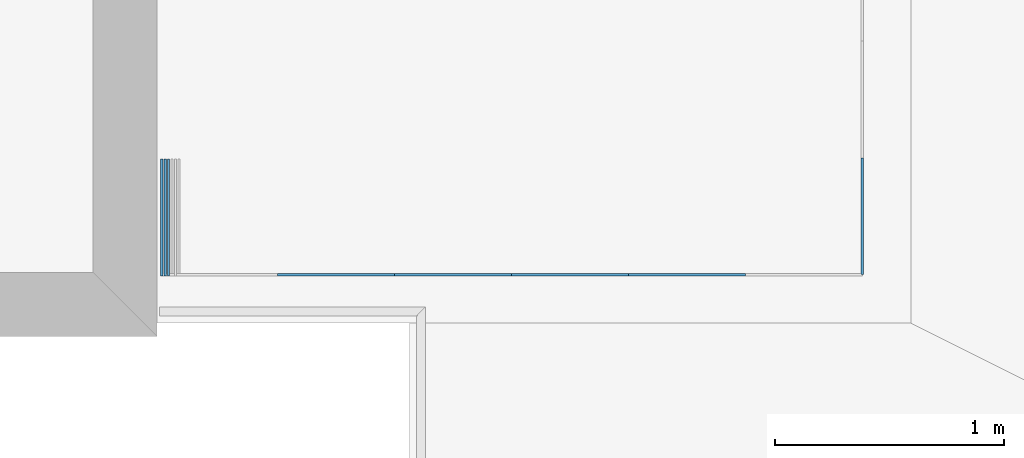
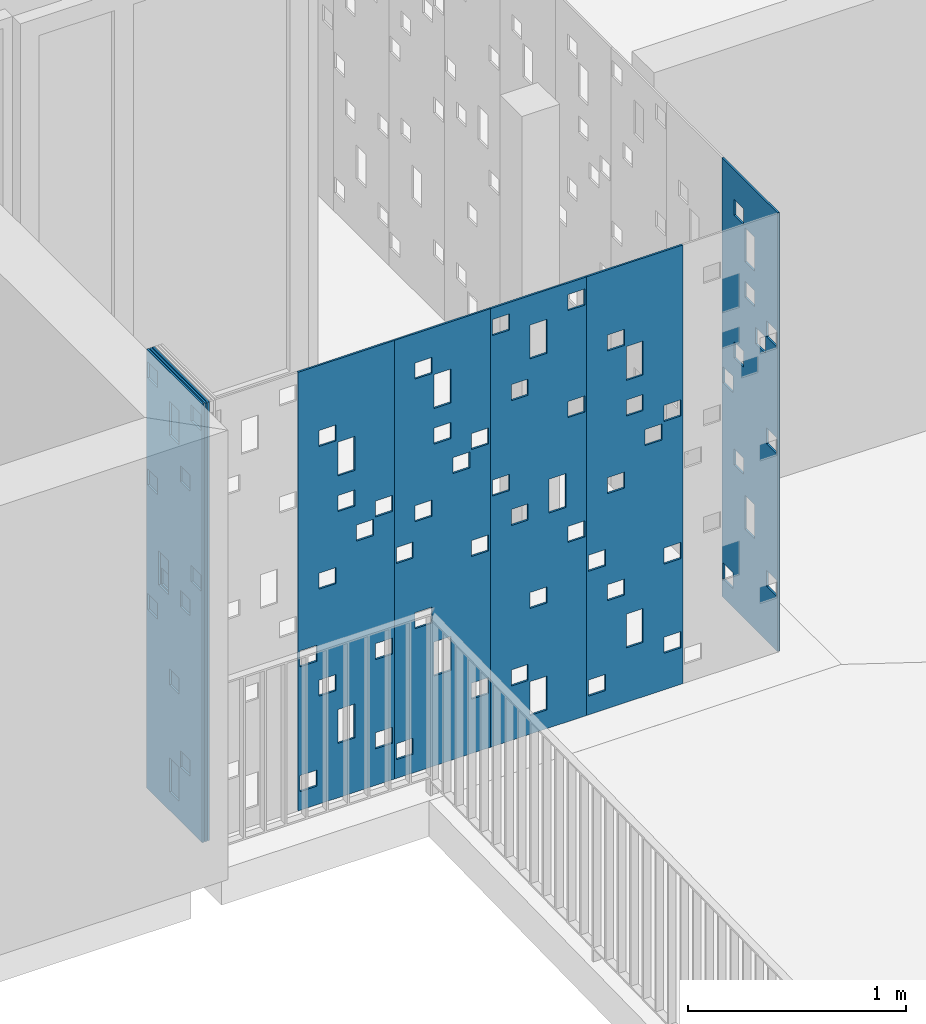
# One storey, part 7 of 51: 8 beams.
"""IFC2X3 building model written with IfcOpenShell, lengths in metres."""

from ifc_helpers import new_model, entity, si_unit, converted_unit, derived_unit, direction, frame, origin, place, context, subcontext, project, spatial, polyline, outline, extrude, material, type_object, element, save


model = new_model("IFC2X3")

# Units and contexts
model_context = context("Model", 3, precision=1e-05, world=origin(), true_north=direction((6.123031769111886e-17, 1.0)))
body_context = subcontext(model_context, "Body", "Model", "MODEL_VIEW")
ifc_project = project(units=[si_unit("LENGTHUNIT", "METRE"), si_unit("AREAUNIT", "SQUARE_METRE"), si_unit("VOLUMEUNIT", "CUBIC_METRE"), converted_unit("PLANEANGLEUNIT", "DEGREE", entity("IfcRatioMeasure", 0.017453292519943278), si_unit("PLANEANGLEUNIT", "RADIAN"), dimensions=[0, 0, 0, 0, 0, 0, 0]), si_unit("MASSUNIT", "GRAM", prefix="KILO"), derived_unit("MASSDENSITYUNIT", [(si_unit("MASSUNIT", "GRAM", prefix="KILO"), 1), (si_unit("LENGTHUNIT", "METRE"), -3)]), derived_unit("MOMENTOFINERTIAUNIT", [(si_unit("LENGTHUNIT", "METRE"), 4)]), si_unit("TIMEUNIT", "SECOND"), si_unit("FREQUENCYUNIT", "HERTZ"), si_unit("THERMODYNAMICTEMPERATUREUNIT", "DEGREE_CELSIUS"), derived_unit("THERMALTRANSMITTANCEUNIT", [(si_unit("MASSUNIT", "GRAM", prefix="KILO"), 1), (si_unit("THERMODYNAMICTEMPERATUREUNIT", "KELVIN"), -1), (si_unit("TIMEUNIT", "SECOND"), -3)]), derived_unit("THERMALCONDUCTANCEUNIT", [(si_unit("MASSUNIT", "GRAM", prefix="KILO"), 1), (si_unit("LENGTHUNIT", "METRE"), 1), (si_unit("THERMODYNAMICTEMPERATUREUNIT", "KELVIN"), -1), (si_unit("TIMEUNIT", "SECOND"), -3)]), derived_unit("VOLUMETRICFLOWRATEUNIT", [(si_unit("LENGTHUNIT", "METRE"), 3), (si_unit("TIMEUNIT", "SECOND"), -1)]), derived_unit("MASSFLOWRATEUNIT", [(si_unit("MASSUNIT", "GRAM", prefix="KILO"), 1), (si_unit("TIMEUNIT", "SECOND"), -1)]), derived_unit("ROTATIONALFREQUENCYUNIT", [(si_unit("TIMEUNIT", "SECOND"), -1)]), si_unit("ELECTRICCURRENTUNIT", "AMPERE"), si_unit("ELECTRICVOLTAGEUNIT", "VOLT"), si_unit("POWERUNIT", "WATT"), si_unit("FORCEUNIT", "NEWTON", prefix="KILO"), si_unit("ILLUMINANCEUNIT", "LUX"), si_unit("LUMINOUSFLUXUNIT", "LUMEN"), si_unit("LUMINOUSINTENSITYUNIT", "CANDELA"), derived_unit("USERDEFINED", [(si_unit("MASSUNIT", "GRAM", prefix="KILO"), -1), (si_unit("LENGTHUNIT", "METRE"), -2), (si_unit("TIMEUNIT", "SECOND"), 3), (si_unit("LUMINOUSFLUXUNIT", "LUMEN"), 1)]), derived_unit("USERDEFINED", [(si_unit("MASSUNIT", "GRAM", prefix="KILO"), 1), (si_unit("LENGTHUNIT", "METRE"), 3), (si_unit("TIMEUNIT", "SECOND"), -3), (si_unit("ELECTRICCURRENTUNIT", "AMPERE"), -2)]), derived_unit("USERDEFINED", [(si_unit("LENGTHUNIT", "METRE"), 2), (si_unit("TIMEUNIT", "SECOND"), -2)]), derived_unit("SOUNDPOWERUNIT", [(si_unit("MASSUNIT", "GRAM", prefix="KILO"), 1), (si_unit("LENGTHUNIT", "METRE"), 2), (si_unit("TIMEUNIT", "SECOND"), -3)]), derived_unit("SOUNDPRESSUREUNIT", [(si_unit("MASSUNIT", "GRAM", prefix="KILO"), 1), (si_unit("LENGTHUNIT", "METRE"), -1), (si_unit("TIMEUNIT", "SECOND"), -2)]), derived_unit("LINEARVELOCITYUNIT", [(si_unit("LENGTHUNIT", "METRE"), 1), (si_unit("TIMEUNIT", "SECOND"), -1)]), si_unit("PRESSUREUNIT", "PASCAL"), derived_unit("USERDEFINED", [(si_unit("LENGTHUNIT", "METRE"), -2), (si_unit("MASSUNIT", "GRAM", prefix="KILO"), 1), (si_unit("TIMEUNIT", "SECOND"), -2)]), derived_unit("LINEARFORCEUNIT", [(si_unit("MASSUNIT", "GRAM", prefix="KILO"), 1), (si_unit("LENGTHUNIT", "METRE"), 1), (si_unit("TIMEUNIT", "SECOND"), -2), (si_unit("LENGTHUNIT", "METRE"), -1)]), derived_unit("PLANARFORCEUNIT", [(si_unit("MASSUNIT", "GRAM", prefix="KILO"), 1), (si_unit("LENGTHUNIT", "METRE"), 1), (si_unit("TIMEUNIT", "SECOND"), -2), (si_unit("LENGTHUNIT", "METRE"), -2)]), derived_unit("SPECIFICHEATCAPACITYUNIT", [(si_unit("LENGTHUNIT", "METRE"), 2), (si_unit("TIMEUNIT", "SECOND"), -2), (si_unit("THERMODYNAMICTEMPERATUREUNIT", "KELVIN"), -1)]), derived_unit("VAPORPERMEABILITYUNIT", [(si_unit("TIMEUNIT", "SECOND"), 1), (si_unit("LENGTHUNIT", "METRE"), -1)]), derived_unit("DYNAMICVISCOSITYUNIT", [(si_unit("MASSUNIT", "GRAM", prefix="KILO"), 1), (si_unit("LENGTHUNIT", "METRE"), -1), (si_unit("TIMEUNIT", "SECOND"), -1)]), derived_unit("THERMALEXPANSIONCOEFFICIENTUNIT", [(si_unit("THERMODYNAMICTEMPERATUREUNIT", "KELVIN"), -1)])], contexts=[model_context])

# Site, building, storey
site_placement = place(None, origin())
site = spatial("IfcSite", under=ifc_project, at=site_placement, Name="Default", CompositionType="ELEMENT")
building_placement = place(site_placement, origin())
building = spatial("IfcBuilding", under=site, at=building_placement, CompositionType="ELEMENT")
storey_placement = place(building_placement, frame((0.0, 0.0, 3.06)))
storey = spatial("IfcBuildingStorey", under=building, at=storey_placement, Name="ÉTAGE", CompositionType="ELEMENT", Elevation=3.06)

# Beams
ifc_material = material(Name="Peinture - Gris foncé")
beam_type_1 = type_object("IfcBeamType", Name="Poutre-017 459230:Poutre-017 459230", PredefinedType="NOTDEFINED")
beam_1_placement = place(storey_placement, origin())
element("IfcBeam", 1, at=beam_1_placement, inside=storey, type_object=beam_type_1, material=ifc_material, Name="Poutre-017", ObjectType="Poutre-017 459230:Poutre-017 459230", context=body_context, shape_type="SweptSolid", body=[
    extrude(outline(polyline([(-0.25500000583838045, -1.2299999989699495), (0.25500000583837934, -1.2299999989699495), (0.25500000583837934, 1.22999999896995), (-0.25500000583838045, 1.22999999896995), (-0.25500000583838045, -1.2299999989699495)]), holes=[polyline([(-0.24500002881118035, 1.1250000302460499), (-0.1549999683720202, 1.1250000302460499), (-0.1549999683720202, 1.03499996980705), (-0.24500002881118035, 1.03499996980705), (-0.24500002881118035, 1.1250000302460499)]), polyline([(-0.05499996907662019, 0.4250000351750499), (-0.05499996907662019, 0.33499997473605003), (-0.1449999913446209, 0.33499997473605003), (-0.1449999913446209, 0.4250000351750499), (-0.05499996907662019, 0.4250000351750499)]), polyline([(0.044999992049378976, 0.5350000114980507), (-0.04499999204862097, 0.5350000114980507), (-0.04499999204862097, 0.7249999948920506), (0.044999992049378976, 0.7249999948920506), (0.044999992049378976, 0.5350000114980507)]), polyline([(0.24499999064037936, 0.9250000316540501), (0.24499999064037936, 0.8350000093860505), (0.15500000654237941, 0.8350000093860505), (0.15500000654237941, 0.9250000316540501), (0.24499999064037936, 0.9250000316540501)]), polyline([(0.15500000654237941, 0.12500003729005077), (0.24499999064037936, 0.12500003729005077), (0.24499999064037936, 0.03500001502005), (0.15500000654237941, 0.03500001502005), (0.15500000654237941, 0.12500003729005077)]), polyline([(-0.1449999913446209, -0.9749999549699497), (-0.05499996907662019, -0.9749999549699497), (-0.05499996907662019, -1.06499997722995), (-0.1449999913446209, -1.06499997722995), (-0.1449999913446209, -0.9749999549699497)]), polyline([(-0.24500002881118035, 0.025000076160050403), (-0.1549999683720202, 0.025000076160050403), (-0.1549999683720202, -0.06499998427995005), (-0.24500002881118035, -0.06499998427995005), (-0.24500002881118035, 0.025000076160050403)]), polyline([(-0.05499996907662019, -0.2650000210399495), (-0.1449999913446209, -0.2650000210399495), (-0.1449999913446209, -0.17499996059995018), (-0.05499996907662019, -0.17499996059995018), (-0.05499996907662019, -0.2650000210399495)]), polyline([(-0.04499999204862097, -0.5749999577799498), (0.044999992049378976, -0.5749999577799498), (0.044999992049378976, -0.6650000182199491), (-0.04499999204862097, -0.6650000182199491), (-0.04499999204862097, -0.5749999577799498)]), polyline([(0.044999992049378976, -0.7749999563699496), (0.044999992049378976, -0.965000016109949), (-0.04499999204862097, -0.965000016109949), (-0.04499999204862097, -0.7749999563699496), (0.044999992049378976, -0.7749999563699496)]), polyline([(0.14499999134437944, -0.4650000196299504), (0.055000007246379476, -0.4650000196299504), (0.055000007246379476, -0.37499995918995), (0.14499999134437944, -0.37499995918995), (0.14499999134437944, -0.4650000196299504)]), polyline([(0.24499999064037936, -0.4749999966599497), (0.24499999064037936, -0.5650000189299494), (0.15500000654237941, -0.5650000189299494), (0.15500000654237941, -0.4749999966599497), (0.24499999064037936, -0.4749999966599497)])]), frame((151.970752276, 8.112209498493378, 2.46000001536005), z_axis=(1.0, 0.0, 0.0), x_axis=(0.0, -1.0, 0.0)), (0.0, 0.0, 1.0), 0.009999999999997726),
])
beam_type_2 = type_object("IfcBeamType", Name="Poutre-017 459038:Poutre-017 459038", PredefinedType="NOTDEFINED")
beam_2_placement = place(storey_placement, origin())
element("IfcBeam", 2, at=beam_2_placement, inside=storey, type_object=beam_type_2, material=ifc_material, Name="Poutre-017", ObjectType="Poutre-017 459038:Poutre-017 459038", context=body_context, shape_type="SweptSolid", body=[
    extrude(outline(polyline([(-0.2550000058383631, -1.2299999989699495), (0.25500000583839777, -1.2299999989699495), (0.25500000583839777, 1.2299999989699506), (-0.2550000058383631, 1.2299999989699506), (-0.2550000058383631, -1.2299999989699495)]), holes=[polyline([(-0.24499999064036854, -0.03500001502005), (-0.15500000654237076, -0.03500001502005), (-0.15500000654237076, -0.1250000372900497), (-0.24499999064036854, -0.1250000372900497), (-0.24499999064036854, -0.03500001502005)]), polyline([(0.15499996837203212, -1.0349999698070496), (0.24500002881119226, -1.0349999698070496), (0.24500002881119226, -1.1250000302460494), (0.15499996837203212, -1.1250000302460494), (0.15499996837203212, -1.0349999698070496)]), polyline([(0.14499999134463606, -0.33499997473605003), (0.14499999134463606, -0.4250000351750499), (0.05499996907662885, -0.4250000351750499), (0.05499996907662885, -0.33499997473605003), (0.14499999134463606, -0.33499997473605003)]), polyline([(0.04499999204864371, -0.7249999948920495), (-0.0449999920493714, -0.7249999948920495), (-0.0449999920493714, -0.5350000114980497), (0.04499999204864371, -0.5350000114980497), (0.04499999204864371, -0.7249999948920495)]), polyline([(-0.15500000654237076, -0.8350000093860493), (-0.15500000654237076, -0.9250000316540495), (-0.24499999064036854, -0.9250000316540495), (-0.24499999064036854, -0.8350000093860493), (-0.15500000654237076, -0.8350000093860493)]), polyline([(0.05499996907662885, 1.06499997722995), (0.14499999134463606, 1.06499997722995), (0.14499999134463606, 0.9749999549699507), (0.05499996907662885, 0.9749999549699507), (0.05499996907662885, 1.06499997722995)]), polyline([(0.15499996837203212, 0.06499998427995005), (0.24500002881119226, 0.06499998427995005), (0.24500002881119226, -0.02500007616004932), (0.15499996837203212, -0.02500007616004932), (0.15499996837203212, 0.06499998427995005)]), polyline([(0.14499999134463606, 0.17499996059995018), (0.05499996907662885, 0.17499996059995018), (0.05499996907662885, 0.26500002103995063), (0.14499999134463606, 0.26500002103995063), (0.14499999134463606, 0.17499996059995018)]), polyline([(-0.0449999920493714, 0.6650000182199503), (0.04499999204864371, 0.6650000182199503), (0.04499999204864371, 0.5749999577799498), (-0.0449999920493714, 0.5749999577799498), (-0.0449999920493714, 0.6650000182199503)]), polyline([(0.04499999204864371, 0.9650000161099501), (0.04499999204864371, 0.7749999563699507), (-0.0449999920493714, 0.7749999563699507), (-0.0449999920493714, 0.9650000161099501), (0.04499999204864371, 0.9650000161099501)]), polyline([(-0.05500000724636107, 0.37499995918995), (-0.14499999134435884, 0.37499995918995), (-0.14499999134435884, 0.4650000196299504), (-0.05500000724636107, 0.4650000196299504), (-0.05500000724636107, 0.37499995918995)]), polyline([(-0.15500000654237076, 0.5650000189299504), (-0.15500000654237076, 0.4749999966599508), (-0.24499999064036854, 0.4749999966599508), (-0.24499999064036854, 0.5650000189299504), (-0.15500000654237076, 0.5650000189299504)])]), frame((150.19075224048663, 7.85220950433, 2.460000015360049), z_axis=(0.0, 1.0, 0.0), x_axis=(-1.0, 0.0, 0.0)), (0.0, 0.0, 1.0), 0.009999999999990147),
])
beam_3_placement = place(storey_placement, origin())
element("IfcBeam", 3, at=beam_3_placement, inside=storey, type_object=beam_type_2, material=ifc_material, Name="Poutre-017", ObjectType="Poutre-017 459038:Poutre-017 459038", context=body_context, shape_type="SweptSolid", body=[
    extrude(outline(polyline([(-1.2299999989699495, -0.25500000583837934), (1.2299999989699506, -0.25500000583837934), (1.2299999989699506, 0.25500000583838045), (-1.2299999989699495, 0.25500000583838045), (-1.2299999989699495, -0.25500000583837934)]), holes=[polyline([(-1.0349999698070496, 0.1549999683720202), (-1.1250000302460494, 0.1549999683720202), (-1.1250000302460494, 0.24500002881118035), (-1.0349999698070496, 0.24500002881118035), (-1.0349999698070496, 0.1549999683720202)]), polyline([(-0.33499997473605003, 0.1449999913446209), (-0.33499997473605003, 0.05499996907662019), (-0.4250000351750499, 0.05499996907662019), (-0.4250000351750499, 0.1449999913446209), (-0.33499997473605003, 0.1449999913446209)]), polyline([(-0.7249999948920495, 0.04499999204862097), (-0.5350000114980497, 0.04499999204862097), (-0.5350000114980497, -0.044999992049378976), (-0.7249999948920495, -0.044999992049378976), (-0.7249999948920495, 0.04499999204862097)]), polyline([(-0.8350000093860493, -0.15500000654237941), (-0.8350000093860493, -0.24499999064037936), (-0.9250000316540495, -0.24499999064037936), (-0.9250000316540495, -0.15500000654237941), (-0.8350000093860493, -0.15500000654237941)]), polyline([(1.06499997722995, 0.05499996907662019), (0.9749999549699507, 0.05499996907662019), (0.9749999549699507, 0.1449999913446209), (1.06499997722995, 0.1449999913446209), (1.06499997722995, 0.05499996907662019)]), polyline([(0.06499998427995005, 0.1549999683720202), (-0.02500007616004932, 0.1549999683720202), (-0.02500007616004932, 0.24500002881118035), (0.06499998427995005, 0.24500002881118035), (0.06499998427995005, 0.1549999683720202)]), polyline([(0.17499996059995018, 0.1449999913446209), (0.26500002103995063, 0.1449999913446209), (0.26500002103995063, 0.05499996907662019), (0.17499996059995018, 0.05499996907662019), (0.17499996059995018, 0.1449999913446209)]), polyline([(0.6650000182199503, -0.044999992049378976), (0.5749999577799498, -0.044999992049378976), (0.5749999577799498, 0.04499999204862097), (0.6650000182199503, 0.04499999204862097), (0.6650000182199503, -0.044999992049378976)]), polyline([(0.9650000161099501, 0.04499999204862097), (0.9650000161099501, -0.044999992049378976), (0.7749999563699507, -0.044999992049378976), (0.7749999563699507, 0.04499999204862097), (0.9650000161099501, 0.04499999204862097)]), polyline([(0.37499995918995, -0.055000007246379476), (0.4650000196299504, -0.055000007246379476), (0.4650000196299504, -0.14499999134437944), (0.37499995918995, -0.14499999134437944), (0.37499995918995, -0.055000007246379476)]), polyline([(0.5650000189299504, -0.15500000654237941), (0.5650000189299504, -0.24499999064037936), (0.4749999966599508, -0.24499999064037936), (0.4749999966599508, -0.15500000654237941), (0.5650000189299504, -0.15500000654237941)]), polyline([(-0.03500001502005, -0.24499999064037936), (-0.1250000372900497, -0.24499999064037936), (-0.1250000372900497, -0.15500000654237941), (-0.03500001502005, -0.15500000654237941), (-0.03500001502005, -0.24499999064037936)])]), frame((148.945752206, 8.10720948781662, 2.460000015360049), z_axis=(1.0, 0.0, 0.0), x_axis=(0.0, 0.0, 1.0)), (0.0, 0.0, 1.0), 0.009999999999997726),
])
beam_type_3 = type_object("IfcBeamType", Name="Poutre-017 458855:Poutre-017 458855", PredefinedType="NOTDEFINED")
beam_4_placement = place(storey_placement, origin())
element("IfcBeam", 4, at=beam_4_placement, inside=storey, type_object=beam_type_3, material=ifc_material, Name="Poutre-017", ObjectType="Poutre-017 458855:Poutre-017 458855", context=body_context, shape_type="SweptSolid", body=[
    extrude(outline(polyline([(-0.25500001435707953, -1.2299999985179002), (0.2550000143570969, -1.2299999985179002), (0.2550000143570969, 1.2299999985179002), (-0.25500001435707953, 1.2299999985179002), (-0.25500001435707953, -1.2299999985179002)]), holes=[polyline([(-0.24500001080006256, 0.42500001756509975), (-0.15499994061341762, 0.42500001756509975), (-0.15499994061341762, 0.33499998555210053), (-0.24500001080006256, 0.33499998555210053), (-0.24500001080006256, 0.42500001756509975)]), polyline([(-0.15499994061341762, 1.0349999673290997), (-0.24500001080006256, 1.0349999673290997), (-0.24500001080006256, 1.1249999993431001), (-0.15499994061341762, 1.1249999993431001), (-0.15499994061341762, 1.0349999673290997)]), polyline([(-0.1449999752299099, 0.5349999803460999), (-0.1449999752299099, 0.6250000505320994), (-0.05499994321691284, 0.6250000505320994), (-0.05499994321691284, 0.5349999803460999), (-0.1449999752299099, 0.5349999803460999)]), polyline([(0.04499997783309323, 0.7350000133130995), (-0.04499993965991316, 0.7350000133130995), (-0.04499993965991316, 0.9250000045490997), (0.04499997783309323, 0.9250000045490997), (0.04499997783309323, 0.7350000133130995)]), polyline([(0.15499997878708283, 0.4349999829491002), (0.15499997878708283, 0.5250000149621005), (0.2450000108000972, 0.5250000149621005), (0.2450000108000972, 0.4349999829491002), (0.15499997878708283, 0.4349999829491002)]), polyline([(0.15499997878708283, 0.9349999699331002), (0.15499997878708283, 1.0250000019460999), (0.2450000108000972, 1.0250000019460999), (0.2450000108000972, 0.9349999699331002), (0.15499997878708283, 0.9349999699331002)]), polyline([(-0.1449999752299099, -0.7749999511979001), (-0.05499994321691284, -0.7749999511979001), (-0.05499994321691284, -0.8649999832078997), (-0.1449999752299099, -0.8649999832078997), (-0.1449999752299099, -0.7749999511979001)]), polyline([(-0.1449999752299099, -0.06500004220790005), (-0.1449999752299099, 0.024999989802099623), (-0.05499994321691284, 0.024999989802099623), (-0.05499994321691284, -0.06500004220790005), (-0.1449999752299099, -0.06500004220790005)]), polyline([(0.04499997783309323, -0.4650000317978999), (-0.04499993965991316, -0.4650000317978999), (-0.04499993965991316, -0.3749999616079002), (0.04499997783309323, -0.3749999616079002), (0.04499997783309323, -0.4650000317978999)]), polyline([(-0.04499993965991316, -0.5749999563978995), (0.04499997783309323, -0.5749999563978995), (0.04499997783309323, -0.7650000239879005), (-0.04499993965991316, -0.7650000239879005), (-0.04499993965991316, -0.5749999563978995)]), polyline([(0.05500001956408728, -0.17499996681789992), (0.14499997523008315, -0.17499996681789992), (0.14499997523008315, -0.2649999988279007), (0.05500001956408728, -0.2649999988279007), (0.05500001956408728, -0.17499996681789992)]), polyline([(0.15499997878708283, -0.27499996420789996), (0.2450000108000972, -0.27499996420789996), (0.2450000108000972, -0.3649999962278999), (0.15499997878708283, -0.3649999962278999), (0.15499997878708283, -0.27499996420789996)])]), frame((151.2107522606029, 7.85220950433, 2.4600000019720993), z_axis=(0.0, 1.0, 0.0), x_axis=(1.0, 0.0, 0.0)), (0.0, 0.0, 1.0), 0.009999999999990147),
])
beam_5_placement = place(storey_placement, origin())
element("IfcBeam", 5, at=beam_5_placement, inside=storey, type_object=beam_type_3, material=ifc_material, Name="Poutre-017", ObjectType="Poutre-017 458855:Poutre-017 458855", context=body_context, shape_type="SweptSolid", body=[
    extrude(outline(polyline([(-0.25500001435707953, -1.2299999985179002), (0.2550000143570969, -1.2299999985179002), (0.2550000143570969, 1.2299999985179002), (-0.25500001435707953, 1.2299999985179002), (-0.25500001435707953, -1.2299999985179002)]), holes=[polyline([(-0.24500001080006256, 0.42500001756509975), (-0.15499994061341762, 0.42500001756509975), (-0.15499994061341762, 0.33499998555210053), (-0.24500001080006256, 0.33499998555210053), (-0.24500001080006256, 0.42500001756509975)]), polyline([(-0.15499994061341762, 1.0349999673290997), (-0.24500001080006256, 1.0349999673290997), (-0.24500001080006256, 1.1249999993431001), (-0.15499994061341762, 1.1249999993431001), (-0.15499994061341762, 1.0349999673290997)]), polyline([(-0.1449999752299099, 0.5349999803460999), (-0.1449999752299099, 0.6250000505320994), (-0.05499994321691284, 0.6250000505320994), (-0.05499994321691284, 0.5349999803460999), (-0.1449999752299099, 0.5349999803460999)]), polyline([(0.04499997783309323, 0.7350000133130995), (-0.04499993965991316, 0.7350000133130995), (-0.04499993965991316, 0.9250000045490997), (0.04499997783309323, 0.9250000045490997), (0.04499997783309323, 0.7350000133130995)]), polyline([(0.15499997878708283, 0.4349999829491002), (0.15499997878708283, 0.5250000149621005), (0.2450000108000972, 0.5250000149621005), (0.2450000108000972, 0.4349999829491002), (0.15499997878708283, 0.4349999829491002)]), polyline([(0.15499997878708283, 0.9349999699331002), (0.15499997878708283, 1.0250000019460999), (0.2450000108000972, 1.0250000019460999), (0.2450000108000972, 0.9349999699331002), (0.15499997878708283, 0.9349999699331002)]), polyline([(-0.1449999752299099, -0.7749999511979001), (-0.05499994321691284, -0.7749999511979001), (-0.05499994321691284, -0.8649999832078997), (-0.1449999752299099, -0.8649999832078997), (-0.1449999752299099, -0.7749999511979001)]), polyline([(-0.1449999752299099, -0.06500004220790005), (-0.1449999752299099, 0.024999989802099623), (-0.05499994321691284, 0.024999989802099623), (-0.05499994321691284, -0.06500004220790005), (-0.1449999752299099, -0.06500004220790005)]), polyline([(0.04499997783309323, -0.4650000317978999), (-0.04499993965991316, -0.4650000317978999), (-0.04499993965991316, -0.3749999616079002), (0.04499997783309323, -0.3749999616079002), (0.04499997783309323, -0.4650000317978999)]), polyline([(-0.04499993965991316, -0.5749999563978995), (0.04499997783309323, -0.5749999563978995), (0.04499997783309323, -0.7650000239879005), (-0.04499993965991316, -0.7650000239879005), (-0.04499993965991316, -0.5749999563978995)]), polyline([(0.05500001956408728, -0.17499996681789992), (0.14499997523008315, -0.17499996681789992), (0.14499997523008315, -0.2649999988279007), (0.05500001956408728, -0.2649999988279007), (0.05500001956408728, -0.17499996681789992)]), polyline([(0.15499997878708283, -0.27499996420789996), (0.2450000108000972, -0.27499996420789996), (0.2450000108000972, -0.3649999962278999), (0.15499997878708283, -0.3649999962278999), (0.15499997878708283, -0.27499996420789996)])]), frame((149.6807522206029, 7.85220950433, 2.4600000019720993), z_axis=(0.0, 1.0, 0.0), x_axis=(1.0, 0.0, 0.0)), (0.0, 0.0, 1.0), 0.009999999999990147),
])
beam_6_placement = place(storey_placement, origin())
element("IfcBeam", 6, at=beam_6_placement, inside=storey, type_object=beam_type_3, material=ifc_material, Name="Poutre-017", ObjectType="Poutre-017 458855:Poutre-017 458855", context=body_context, shape_type="SweptSolid", body=[
    extrude(outline(polyline([(-0.25500001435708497, -1.2299999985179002), (0.25500001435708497, -1.2299999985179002), (0.25500001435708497, 1.2299999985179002), (-0.25500001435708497, 1.2299999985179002), (-0.25500001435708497, -1.2299999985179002)]), holes=[polyline([(-0.24500001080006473, 0.42500001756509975), (-0.15499994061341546, 0.42500001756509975), (-0.15499994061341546, 0.33499998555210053), (-0.24500001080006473, 0.33499998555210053), (-0.24500001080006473, 0.42500001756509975)]), polyline([(-0.15499994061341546, 1.0349999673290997), (-0.24500001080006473, 1.0349999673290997), (-0.24500001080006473, 1.1249999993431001), (-0.15499994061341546, 1.1249999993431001), (-0.15499994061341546, 1.0349999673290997)]), polyline([(-0.1449999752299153, 0.5349999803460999), (-0.1449999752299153, 0.6250000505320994), (-0.054999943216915, 0.6250000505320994), (-0.054999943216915, 0.5349999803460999), (-0.1449999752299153, 0.5349999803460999)]), polyline([(0.04499997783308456, 0.7350000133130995), (-0.044999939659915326, 0.7350000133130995), (-0.044999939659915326, 0.9250000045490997), (0.04499997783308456, 0.9250000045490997), (0.04499997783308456, 0.7350000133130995)]), polyline([(0.154999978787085, 0.4349999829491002), (0.154999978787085, 0.5250000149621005), (0.2450000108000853, 0.5250000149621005), (0.2450000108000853, 0.4349999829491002), (0.154999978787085, 0.4349999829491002)]), polyline([(0.154999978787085, 0.9349999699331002), (0.154999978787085, 1.0250000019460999), (0.2450000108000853, 1.0250000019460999), (0.2450000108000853, 0.9349999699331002), (0.154999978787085, 0.9349999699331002)]), polyline([(-0.1449999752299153, -0.7749999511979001), (-0.054999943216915, -0.7749999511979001), (-0.054999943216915, -0.8649999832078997), (-0.1449999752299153, -0.8649999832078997), (-0.1449999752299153, -0.7749999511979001)]), polyline([(-0.1449999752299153, -0.06500004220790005), (-0.1449999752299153, 0.024999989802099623), (-0.054999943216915, 0.024999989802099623), (-0.054999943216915, -0.06500004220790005), (-0.1449999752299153, -0.06500004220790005)]), polyline([(0.04499997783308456, -0.4650000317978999), (-0.044999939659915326, -0.4650000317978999), (-0.044999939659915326, -0.3749999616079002), (0.04499997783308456, -0.3749999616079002), (0.04499997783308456, -0.4650000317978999)]), polyline([(-0.044999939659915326, -0.5749999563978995), (0.04499997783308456, -0.5749999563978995), (0.04499997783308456, -0.7650000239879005), (-0.044999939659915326, -0.7650000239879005), (-0.044999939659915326, -0.5749999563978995)]), polyline([(0.055000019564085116, -0.17499996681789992), (0.14499997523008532, -0.17499996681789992), (0.14499997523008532, -0.2649999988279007), (0.055000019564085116, -0.2649999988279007), (0.055000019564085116, -0.17499996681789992)]), polyline([(0.154999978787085, -0.27499996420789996), (0.2450000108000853, -0.27499996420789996), (0.2450000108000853, -0.3649999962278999), (0.154999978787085, -0.3649999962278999), (0.154999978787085, -0.27499996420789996)])]), frame((148.930752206, 8.107209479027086, 2.4600000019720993), z_axis=(1.0, 0.0, 0.0), x_axis=(0.0, -1.0, 0.0)), (0.0, 0.0, 1.0), 0.009999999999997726),
])
beam_type_4 = type_object("IfcBeamType", Name="Poutre-017 458672:Poutre-017 458672", PredefinedType="NOTDEFINED")
beam_7_placement = place(storey_placement, origin())
element("IfcBeam", 7, at=beam_7_placement, inside=storey, type_object=beam_type_4, material=ifc_material, Name="Poutre-017", ObjectType="Poutre-017 458672:Poutre-017 458672", context=body_context, shape_type="SweptSolid", body=[
    extrude(outline(polyline([(-0.25499999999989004, -1.2299999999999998), (0.2549999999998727, -1.2299999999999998), (0.2549999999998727, 1.2299999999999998), (-0.25499999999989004, 1.2299999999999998), (-0.25499999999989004, -1.2299999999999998)]), holes=[polyline([(0.14499996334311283, -0.9249999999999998), (0.05499996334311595, -0.9249999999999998), (0.05499996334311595, -0.8349999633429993), (0.14499996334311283, -0.8349999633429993), (0.14499996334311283, -0.9249999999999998)]), polyline([(0.044999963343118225, -0.43499996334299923), (0.044999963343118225, -0.5250000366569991), (-0.04499999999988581, -0.5250000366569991), (-0.04499999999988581, -0.43499996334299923), (0.044999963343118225, -0.43499996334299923)]), polyline([(0.044999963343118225, -1.1250000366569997), (-0.04499999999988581, -1.1250000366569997), (-0.04499999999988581, -0.9349999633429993), (0.044999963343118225, -0.9349999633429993), (0.044999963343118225, -1.1250000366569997)]), polyline([(-0.15499999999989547, -0.13499999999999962), (-0.15499999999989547, -0.22499999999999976), (-0.24499999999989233, -0.22499999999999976), (-0.24499999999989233, -0.13499999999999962), (-0.15499999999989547, -0.13499999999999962)]), polyline([(-0.04499999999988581, 1.0650000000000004), (0.044999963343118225, 1.0650000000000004), (0.044999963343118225, 0.8750000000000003), (-0.04499999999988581, 0.8750000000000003), (-0.04499999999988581, 1.0650000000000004)]), polyline([(0.244999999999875, 1.1650000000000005), (0.244999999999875, 1.0749999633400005), (0.15499996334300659, 1.0749999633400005), (0.15499996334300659, 1.1650000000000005), (0.244999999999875, 1.1650000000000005)]), polyline([(-0.15499999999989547, 1.0749999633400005), (-0.24499999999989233, 1.0749999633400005), (-0.24499999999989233, 1.1650000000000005), (-0.15499999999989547, 1.1650000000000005), (-0.15499999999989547, 1.0749999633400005)]), polyline([(0.244999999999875, 0.1750000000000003), (0.15499996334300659, 0.1750000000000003), (0.15499996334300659, 0.2650000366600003), (0.244999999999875, 0.2650000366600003), (0.244999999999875, 0.1750000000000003)]), polyline([(0.14499996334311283, -0.025000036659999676), (0.05499996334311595, -0.025000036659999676), (0.05499996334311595, 0.06500000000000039), (0.14499996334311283, 0.06500000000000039), (0.14499996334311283, -0.025000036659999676)]), polyline([(0.14499996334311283, 0.6749999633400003), (0.05499996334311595, 0.6749999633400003), (0.05499996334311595, 0.7650000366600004), (0.14499996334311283, 0.7650000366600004), (0.14499996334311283, 0.6749999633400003)]), polyline([(-0.055000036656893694, -0.02499999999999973), (-0.14499999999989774, -0.02499999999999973), (-0.14499999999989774, 0.16500003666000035), (-0.055000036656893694, 0.16500003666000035), (-0.055000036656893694, -0.02499999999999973)]), polyline([(-0.15499999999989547, 0.5650000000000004), (-0.15499999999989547, 0.4750000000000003), (-0.24499999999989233, 0.4750000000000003), (-0.24499999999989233, 0.5650000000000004), (-0.15499999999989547, 0.5650000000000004)])]), frame((150.70075224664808, 7.85220950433, 2.459999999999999), z_axis=(0.0, 1.0, 0.0), x_axis=(-1.0, 0.0, 0.0)), (0.0, 0.0, 1.0), 0.009999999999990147),
])
beam_8_placement = place(storey_placement, origin())
element("IfcBeam", 8, at=beam_8_placement, inside=storey, type_object=beam_type_4, material=ifc_material, Name="Poutre-017", ObjectType="Poutre-017 458672:Poutre-017 458672", context=body_context, shape_type="SweptSolid", body=[
    extrude(outline(polyline([(-1.2299999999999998, -0.2549999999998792), (1.2299999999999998, -0.2549999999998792), (1.2299999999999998, 0.2549999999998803), (-1.2299999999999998, 0.2549999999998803), (-1.2299999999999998, -0.2549999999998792)]), holes=[polyline([(-0.9249999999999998, 0.1449999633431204), (-0.8349999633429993, 0.1449999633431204), (-0.8349999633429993, 0.05499996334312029), (-0.9249999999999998, 0.05499996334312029), (-0.9249999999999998, 0.1449999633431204)]), polyline([(-0.43499996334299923, 0.04499996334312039), (-0.43499996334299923, -0.04499999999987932), (-0.5250000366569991, -0.04499999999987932), (-0.5250000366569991, 0.04499996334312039), (-0.43499996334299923, 0.04499996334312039)]), polyline([(-1.1250000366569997, 0.04499996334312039), (-0.9349999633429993, 0.04499996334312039), (-0.9349999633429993, -0.04499999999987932), (-1.1250000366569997, -0.04499999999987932), (-1.1250000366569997, 0.04499996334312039)]), polyline([(-0.13499999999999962, -0.1549999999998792), (-0.13499999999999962, -0.24499999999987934), (-0.22499999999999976, -0.24499999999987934), (-0.22499999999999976, -0.1549999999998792), (-0.13499999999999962, -0.1549999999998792)]), polyline([(1.1650000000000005, 0.24499999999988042), (1.1650000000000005, 0.15499996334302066), (1.0749999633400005, 0.15499996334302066), (1.0749999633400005, 0.24499999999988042), (1.1650000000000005, 0.24499999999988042)]), polyline([(1.0650000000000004, -0.04499999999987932), (0.8750000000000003, -0.04499999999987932), (0.8750000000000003, 0.04499996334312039), (1.0650000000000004, 0.04499996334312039), (1.0650000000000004, -0.04499999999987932)]), polyline([(1.0749999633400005, -0.1549999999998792), (1.1650000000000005, -0.1549999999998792), (1.1650000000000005, -0.24499999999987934), (1.0749999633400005, -0.24499999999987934), (1.0749999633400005, -0.1549999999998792)]), polyline([(0.1750000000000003, 0.24499999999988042), (0.2650000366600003, 0.24499999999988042), (0.2650000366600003, 0.15499996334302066), (0.1750000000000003, 0.15499996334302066), (0.1750000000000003, 0.24499999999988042)]), polyline([(-0.025000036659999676, 0.1449999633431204), (0.06500000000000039, 0.1449999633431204), (0.06500000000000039, 0.05499996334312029), (-0.025000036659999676, 0.05499996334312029), (-0.025000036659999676, 0.1449999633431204)]), polyline([(0.6749999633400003, 0.1449999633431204), (0.7650000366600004, 0.1449999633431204), (0.7650000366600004, 0.05499996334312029), (0.6749999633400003, 0.05499996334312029), (0.6749999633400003, 0.1449999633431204)]), polyline([(-0.02499999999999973, -0.055000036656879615), (0.16500003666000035, -0.055000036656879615), (0.16500003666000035, -0.14499999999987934), (-0.02499999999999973, -0.14499999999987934), (-0.02499999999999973, -0.055000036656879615)]), polyline([(0.5650000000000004, -0.1549999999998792), (0.5650000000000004, -0.24499999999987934), (0.4750000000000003, -0.24499999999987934), (0.4750000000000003, -0.1549999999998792), (0.5650000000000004, -0.1549999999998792)])]), frame((148.91575220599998, 8.10720948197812, 2.459999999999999), z_axis=(1.0, 0.0, 0.0), x_axis=(0.0, 0.0, 1.0)), (0.0, 0.0, 1.0), 0.009999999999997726),
])

save(model, "model.ifc")
